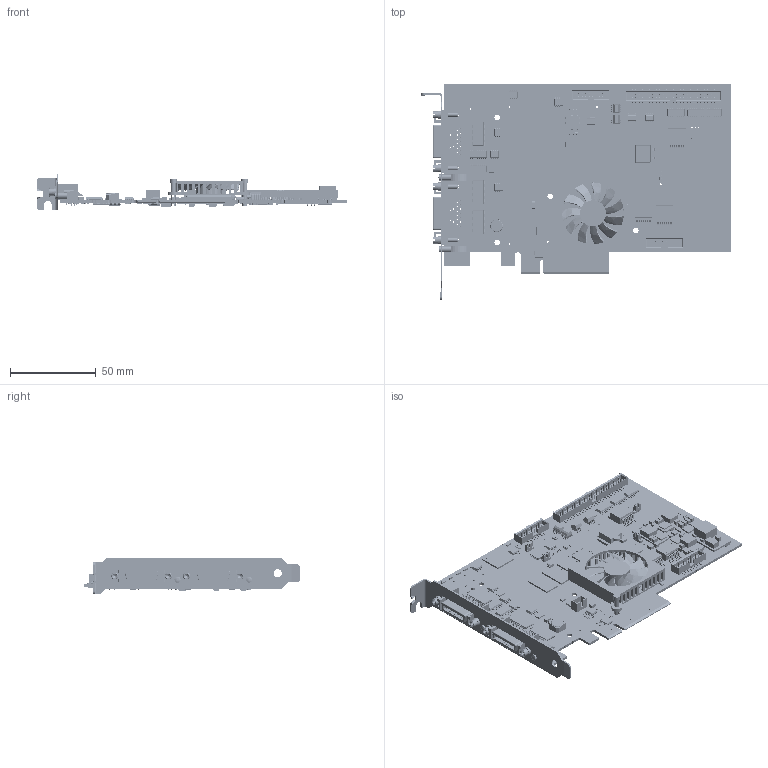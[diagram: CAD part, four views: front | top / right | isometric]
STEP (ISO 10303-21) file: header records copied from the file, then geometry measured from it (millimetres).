
FILE_DESCRIPTION( ( 'Unknown' ), '1' );
FILE_NAME( 'Q:/2003/Product3DModels/mm-ap20c02-0026-0301.stp', 'Unknown', ( 'Unknown' ), ( 'Unknown' ), 'PSStep 17.0.49', 'Unknown', ' ' );
FILE_SCHEMA( ( 'AUTOMOTIVE_DESIGN { 1 0 10303 214 1 1 1 1 }' ) );
Length unit declared in the file: millimetre
Products named in the file (60): Assem1; L3-689; L3-452; L3-1; L3-391; L3-438; L3-92; L3-682; L3-119; L3-465; L3-397; L3-151; L3-687; L3-629; L3-694; L3-127; L3-126; L3-145; L3-692; L3-3; L3-522; L3-693; L3-172; L3-22; L3-393; L3-72; L3-5; L3-345; L3-657; L3-96; L3-636; L3-680; L3-18; L3-144; L3-352; L3-696; L3-440; L3-681; L3-228; L3-698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
Assembly tree (551 placements, depth 2):
  Assem1
    L3-689
    L3-452  x6
    L3-1  x105
    L3-391  x228
    L3-438  x45
    L3-92  x5
    L3-682
    L3-119  x2
    L3-465  x5
    L3-397  x4
    L3-151  x12
    L3-687
    L3-629  x3
    L3-694
    L3-127  x4
    L3-126
    L3-145  x5
    L3-692
    L3-3
    L3-522  x8
    L3-693  x3
    L3-172  x3
    L3-22
    L3-393
    L3-72  x21
    L3-5  x8
    L3-345  x5
    L3-657
    L3-96
    L3-636  x6
    L3-680  x4
    L3-18  x7
    L3-144  x3
    L3-352
    L3-696
    L3-440  x6
    L3-681
    L3-228  x4
    L3-698
    L3-699
    L3-14
    L3-701
    L3-554  x2
    L3-398  x2
    L3-401  x2
    L3-351
    L3-125  x5
    L3-564
    L3-396
    L3-690
    L3-706
    L3-355
    L3-710
    L3-180  x2
    L3-697
    G-910-297A
    G-491-339L  x4
    G-493-243U  x4
    mm-ap20c02-0026-0301
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Bounding box: 181.13 x 126.38 x 21.48 mm (x, y, z)
Surface area: 80155.7 mm2 (no closed solid volume)
Topology: 0 solids, 22419 shells, 22419 faces, 120431 edges, 120174 vertices
Faces by surface type: plane 18819, cylinder 3511, bspline 44, cone 34, torus 9, sphere 2
Full cylindrical faces by diameter (mm): 0.094 x1, 0.144 x6, 0.25 x1, 0.3 x2, 0.5 x16, 0.548 x1, 0.7 x5, 0.75 x1, 0.8 x4, 0.813 x70, 0.886 x1, 1 x62, 1.016 x2, 1.092 x4, 1.27 x12, 1.93 x8, 2.013 x4, 2.156 x4, 2.313 x1, 2.5 x4, 2.7 x4, 2.794 x4, 2.8 x2, 3.2 x6, 3.58 x2, 3.8 x2, 4.1 x6, 4.75 x1, 4.8 x4, 7.3 x1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
Entity records: 465514 total; most frequent: CARTESIAN_POINT 95553, DIRECTION 64524, VERTEX_POINT 41582, ORIENTED_EDGE 41580, EDGE_CURVE 41580, LINE 34602, VECTOR 34602, AXIS2_PLACEMENT_3D 14961
